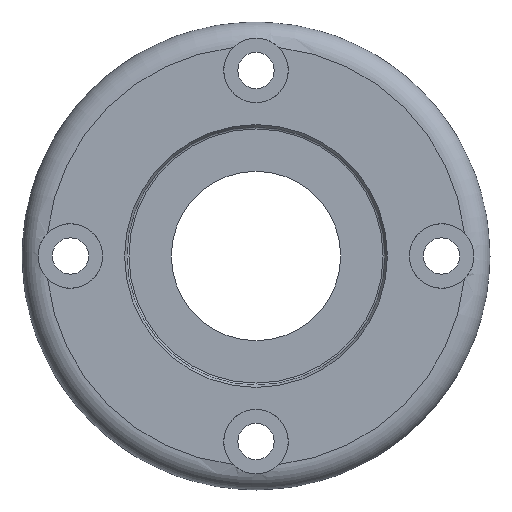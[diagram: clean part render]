
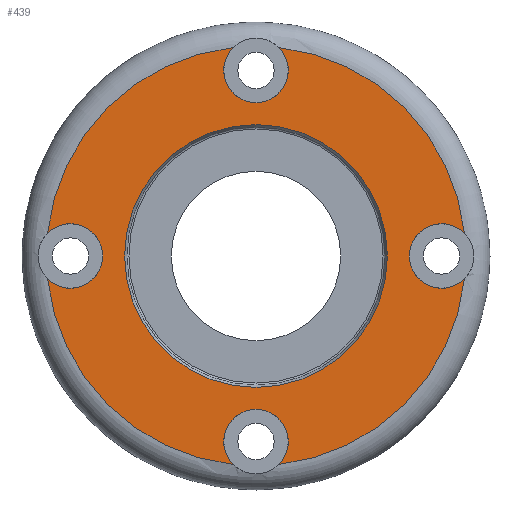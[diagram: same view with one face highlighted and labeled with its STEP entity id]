
A CAD part, left-side view. The second image highlights one B-rep face of the part: STEP entity #439.
In plain terms, the highlighted planar face has unit normal (-1, 0, 0).
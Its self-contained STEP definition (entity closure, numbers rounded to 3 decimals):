
#26=FACE_BOUND('',#123,.T.);
#39=PLANE('',#497);
#94=FACE_OUTER_BOUND('',#122,.T.);
#122=EDGE_LOOP('',(#322,#323,#324,#325,#326,#327,#328,#329));
#123=EDGE_LOOP('',(#330));
#164=CIRCLE('',#496,16.289);
#165=CIRCLE('',#498,4.);
#166=CIRCLE('',#499,26.);
#167=CIRCLE('',#500,4.);
#168=CIRCLE('',#501,26.);
#169=CIRCLE('',#502,4.);
#170=CIRCLE('',#503,26.);
#171=CIRCLE('',#504,4.);
#172=CIRCLE('',#505,26.);
#204=VERTEX_POINT('',#725);
#205=VERTEX_POINT('',#729);
#206=VERTEX_POINT('',#730);
#207=VERTEX_POINT('',#732);
#208=VERTEX_POINT('',#734);
#209=VERTEX_POINT('',#736);
#210=VERTEX_POINT('',#738);
#211=VERTEX_POINT('',#740);
#212=VERTEX_POINT('',#742);
#248=EDGE_CURVE('',#204,#204,#164,.T.);
#250=EDGE_CURVE('',#205,#206,#165,.T.);
#251=EDGE_CURVE('',#207,#206,#166,.T.);
#252=EDGE_CURVE('',#207,#208,#167,.T.);
#253=EDGE_CURVE('',#209,#208,#168,.T.);
#254=EDGE_CURVE('',#209,#210,#169,.T.);
#255=EDGE_CURVE('',#211,#210,#170,.T.);
#256=EDGE_CURVE('',#211,#212,#171,.T.);
#257=EDGE_CURVE('',#205,#212,#172,.T.);
#322=ORIENTED_EDGE('',*,*,#250,.T.);
#323=ORIENTED_EDGE('',*,*,#251,.F.);
#324=ORIENTED_EDGE('',*,*,#252,.T.);
#325=ORIENTED_EDGE('',*,*,#253,.F.);
#326=ORIENTED_EDGE('',*,*,#254,.T.);
#327=ORIENTED_EDGE('',*,*,#255,.F.);
#328=ORIENTED_EDGE('',*,*,#256,.T.);
#329=ORIENTED_EDGE('',*,*,#257,.F.);
#330=ORIENTED_EDGE('',*,*,#248,.F.);
#439=ADVANCED_FACE('',(#94,#26),#39,.T.);
#496=AXIS2_PLACEMENT_3D('',#726,#578,#579);
#497=AXIS2_PLACEMENT_3D('',#728,#581,#582);
#498=AXIS2_PLACEMENT_3D('',#731,#583,#584);
#499=AXIS2_PLACEMENT_3D('',#733,#585,#586);
#500=AXIS2_PLACEMENT_3D('',#735,#587,#588);
#501=AXIS2_PLACEMENT_3D('',#737,#589,#590);
#502=AXIS2_PLACEMENT_3D('',#739,#591,#592);
#503=AXIS2_PLACEMENT_3D('',#741,#593,#594);
#504=AXIS2_PLACEMENT_3D('',#743,#595,#596);
#505=AXIS2_PLACEMENT_3D('',#744,#597,#598);
#578=DIRECTION('center_axis',(-1.,0.,0.));
#579=DIRECTION('ref_axis',(0.,-1.,0.));
#581=DIRECTION('center_axis',(-1.,0.,0.));
#582=DIRECTION('ref_axis',(0.,0.,1.));
#583=DIRECTION('center_axis',(1.,0.,0.));
#584=DIRECTION('ref_axis',(0.,1.,0.));
#585=DIRECTION('center_axis',(1.,0.,0.));
#586=DIRECTION('ref_axis',(0.,0.,-1.));
#587=DIRECTION('center_axis',(1.,0.,0.));
#588=DIRECTION('ref_axis',(0.,0.,-1.));
#589=DIRECTION('center_axis',(1.,0.,0.));
#590=DIRECTION('ref_axis',(0.,0.,-1.));
#591=DIRECTION('center_axis',(1.,0.,0.));
#592=DIRECTION('ref_axis',(0.,-1.,0.));
#593=DIRECTION('center_axis',(1.,0.,0.));
#594=DIRECTION('ref_axis',(0.,0.,-1.));
#595=DIRECTION('center_axis',(1.,0.,0.));
#596=DIRECTION('ref_axis',(0.,0.,1.));
#597=DIRECTION('center_axis',(1.,0.,0.));
#598=DIRECTION('ref_axis',(0.,0.,-1.));
#725=CARTESIAN_POINT('',(-8.,16.289,0.));
#726=CARTESIAN_POINT('Origin',(-8.,0.,0.));
#728=CARTESIAN_POINT('Origin',(-8.,26.,0.));
#729=CARTESIAN_POINT('',(-8.,-25.848,-2.809));
#730=CARTESIAN_POINT('',(-8.,-25.848,2.809));
#731=CARTESIAN_POINT('Origin',(-8.,-23.,0.));
#732=CARTESIAN_POINT('',(-8.,-2.809,25.848));
#733=CARTESIAN_POINT('Origin',(-8.,0.,0.));
#734=CARTESIAN_POINT('',(-8.,2.809,25.848));
#735=CARTESIAN_POINT('Origin',(-8.,0.,23.));
#736=CARTESIAN_POINT('',(-8.,25.848,2.809));
#737=CARTESIAN_POINT('Origin',(-8.,0.,0.));
#738=CARTESIAN_POINT('',(-8.,25.848,-2.809));
#739=CARTESIAN_POINT('Origin',(-8.,23.,0.));
#740=CARTESIAN_POINT('',(-8.,2.809,-25.848));
#741=CARTESIAN_POINT('Origin',(-8.,0.,0.));
#742=CARTESIAN_POINT('',(-8.,-2.809,-25.848));
#743=CARTESIAN_POINT('Origin',(-8.,0.,-23.));
#744=CARTESIAN_POINT('Origin',(-8.,0.,0.));
